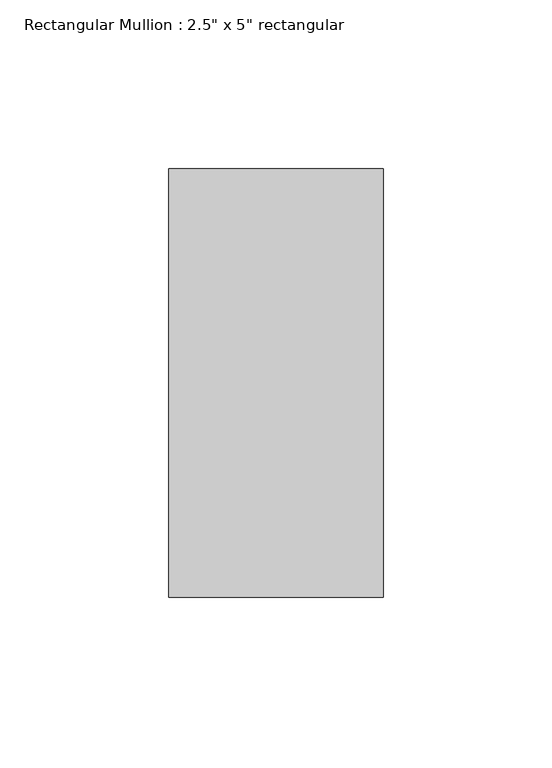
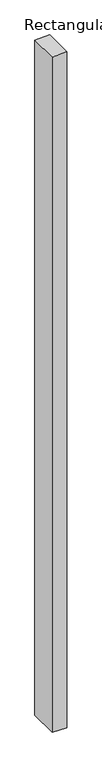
"""IFC4 building model written with IfcOpenShell, lengths in millimetres: member geometry."""

from ifc_helpers import new_model, si_unit, frame, origin, place, context, project, spatial, polyline, outline, extrude, source, transform, mapped, element, save


def member_c6559f13(model_context):
    return source(origin(), model_context, "Body", "SweptSolid", [
        extrude(outline(polyline([(0.0, 0.0), (-1.2488748, -63.5), (-3056.6501511, -63.5), (-3057.8950692, 0.0), (0.0, 0.0)])), frame((0.0, -63.5, 0.0), z_axis=(0.0, 1.0, 0.0), x_axis=(0.0, 0.0, 1.0)), (0.0, 0.0, 1.0), 127.0),
    ])


if __name__ == "__main__":
    model = new_model("IFC4")
    model_context = context("Model", 3, world=origin())
    ifc_project = project(units=[si_unit("LENGTHUNIT", "METRE", prefix="MILLI")], contexts=[model_context])
    site = spatial("IfcSite", under=ifc_project)
    building = spatial("IfcBuilding", under=site)
    placement = place(None, origin())
    member_shape = member_c6559f13(model_context)
    element("IfcMember", 1, ObjectType="Rectangular Mullion : 2.5\" x 5\" rectangular", at=placement, inside=building, context=model_context, shape_type="MappedRepresentation", body=[
        mapped(member_shape, transform((0.0, 0.0, 0.0), x_axis=(1.0, 0.0, 0.0), y_axis=(0.0, 1.0, 0.0), z_axis=(0.0, 0.0, 1.0))),
    ])
    save(model, "model.ifc")
